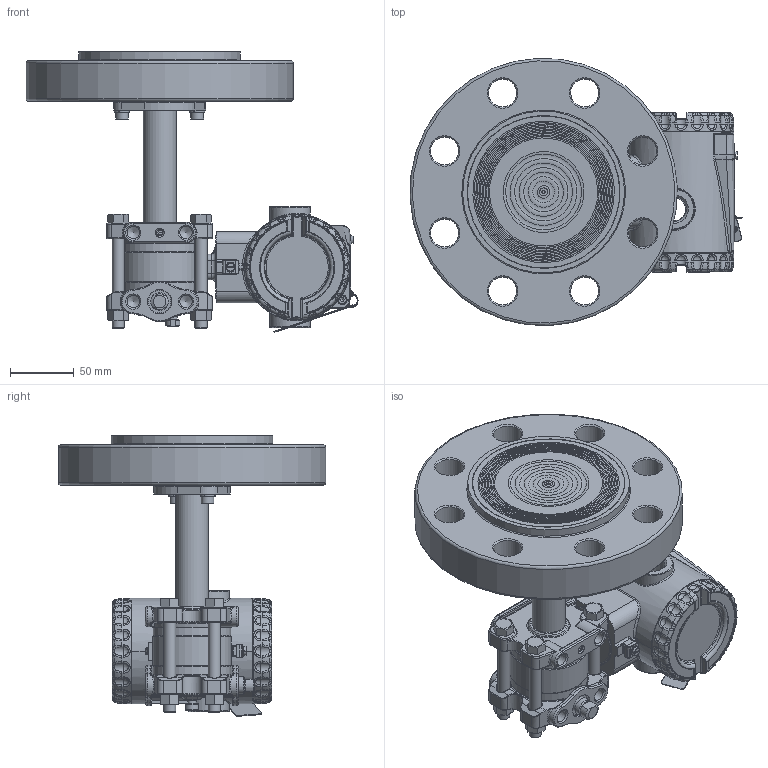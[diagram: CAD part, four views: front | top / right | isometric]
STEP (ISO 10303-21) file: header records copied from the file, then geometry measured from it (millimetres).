
FILE_DESCRIPTION(/* description */ (''),/* implementation_level */ '2;1');
FILE_NAME(/* name */ 'F:\Area\Desenvolvimento_2\Projects\Sensor\projetos\LD400-3d\dimensionais 3D clientes\LD400L\LD400L 3-600 RF ref 1-4NPT purga acima.stp',/* time_stamp */ '2023-02-23T16:30:31-03:00',/* author */ ('inventor02'),/* organization */ (''),/* preprocessor_version */ 'ST-DEVELOPER v17',/* originating_system */ 'Autodesk Inventor 2019',/* authorisation */ '');
FILE_SCHEMA (('CONFIG_CONTROL_DESIGN'));
Products named in the file (38): LD30XL 3-600 RF ref 1-4NPT purga acima; 204-0301-L-3 600 RF purga acima; nivel fx3 com baixa diferencial 1-4NPT purga acima; involucro fx0-3 apos a usinagem final; flange diferencial std purga; 101-C-7484-01 flange selo nivel VR; 201-A-0504-tubo união teste 1; bujao 1-4NPT; Sangria; Porca 3-8 x 16 UNC; Paraf. 3-8 x 16 UNC; adaptação tubo x flanges 1-1-2 a 4pol; 101-B-0161-anel cortado do tubo - teste1; 101-B-0162-flange fixação tubo; ANSI B18.3.1M - M6x1 x 16; DIN 127 - A 6; 101-C-0127-10; Carcaça 400 com tampas e plaqueta sem letras; 101-D-0845-05 carcaça LD400 sem letras; 101-B-3614-03-tampa 400 sem letras; Tampa visor 400 montada sem letras; 101-B-3612-05 tampa visor 400 sem letras; 101-A-6107; oring 2034; 00034775-0; WHW_250; DIN 915 - M6 x 10; Chapa aterramento externo; 201-A-1771-02 inserto terra recartilhado; AS 1969 - ST4,2; ISO 1207 - M4 x 8; ANSI B18.3.1M - M4x0,7 x 8; Subconjunto plaqueta 400; plaqueta 400 em branco; Parafuso da Plaqueta; Rebite da Plaqueta; 096-A-0169-03; 101-A-0502-01
Assembly tree (47 placements, depth 4):
  LD30XL 3-600 RF ref 1-4NPT purga acima
    204-0301-L-3 600 RF purga acima
      nivel fx3 com baixa diferencial 1-4NPT purga acima
        involucro fx0-3 apos a usinagem final
        flange diferencial std purga
        101-C-7484-01 flange selo nivel VR
        201-A-0504-tubo união teste 1
        DIN 915 - M6 x 10
        bujao 1-4NPT
        Sangria
        Porca 3-8 x 16 UNC  x4
        Paraf. 3-8 x 16 UNC  x4
      adaptação tubo x flanges 1-1-2 a 4pol
        101-B-0161-anel cortado do tubo - teste1
        101-B-0162-flange fixação tubo
        ANSI B18.3.1M - M6x1 x 16  x2
        DIN 127 - A 6  x2
      101-C-0127-10
    Carcaça 400 com tampas e plaqueta sem letras
      101-D-0845-05 carcaça LD400 sem letras
      101-B-3614-03-tampa 400 sem letras
      Tampa visor 400 montada sem letras
        101-B-3612-05 tampa visor 400 sem letras
        101-A-6107
        oring 2034
        00034775-0
        WHW_250
      DIN 915 - M6 x 10
      Chapa aterramento externo
      201-A-1771-02 inserto terra recartilhado
      AS 1969 - ST4,2
      ISO 1207 - M4 x 8
      ANSI B18.3.1M - M4x0,7 x 8  x2
      Subconjunto plaqueta 400
        plaqueta 400 em branco
        Parafuso da Plaqueta
        Rebite da Plaqueta
        096-A-0169-03
        101-A-0502-01
Bounding box: 260.65 x 209.8 x 220.22 mm (x, y, z)
Volume: 1717309.3 mm3; surface area: 364171.5 mm2
Topology: 41 solids, 41 shells, 2728 faces, 6623 edges, 3963 vertices
Faces by surface type: plane 708, cylinder 660, bspline 605, torus 455, cone 224, sphere 76
Full cylindrical faces by diameter (mm): 2 x4, 2.1 x1, 2.2 x1, 2.459 x3, 2.5 x1, 2.7 x1, 2.8 x1, 3 x4, 3.242 x3, 3.5 x1, 3.571 x1, 4 x5, 4.3 x2, 4.4 x1, 4.917 x4, 5 x1, 5.5 x3, 6 x6, 6.1 x2, 6.2 x1, 6.647 x1, 7 x5, 7.6 x2, 7.798 x4, 8 x1, 9.525 x4, 9.728 x6, 10 x2, 10.5 x8, 10.719 x2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
Entity records: 97407 total; most frequent: CARTESIAN_POINT 36896, ORIENTED_EDGE 12486, DIRECTION 12434, EDGE_CURVE 6243, AXIS2_PLACEMENT_3D 5307, VERTEX_POINT 3769, CIRCLE 3073, EDGE_LOOP 2758
